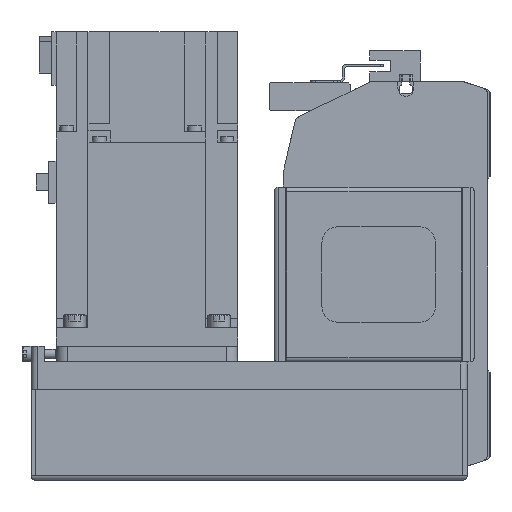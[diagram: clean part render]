
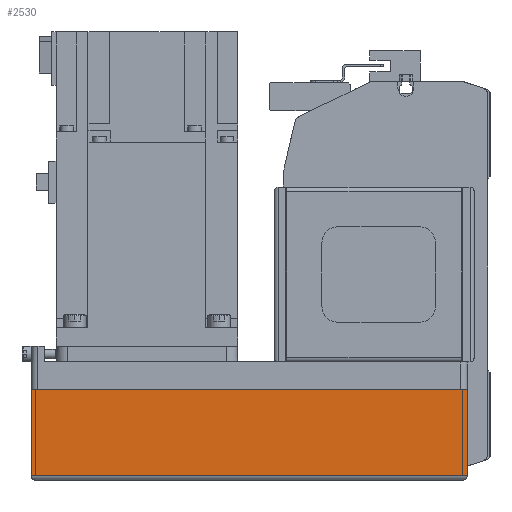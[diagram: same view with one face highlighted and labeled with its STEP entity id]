
A CAD part, left-side view. The second image highlights one B-rep face of the part: STEP entity #2530.
In plain terms, the highlighted planar face has unit normal (-1, 0, 0) as drawn and (0, -1, 0) by its records, which use the part's own axes.
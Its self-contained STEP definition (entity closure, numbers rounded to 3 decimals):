
#2530 = ADVANCED_FACE( '', ( #5415 ), #5416, .T. );
#5415 = FACE_OUTER_BOUND( '', #8599, .T. );
#5416 = PLANE( '', #8600 );
#8599 = EDGE_LOOP( '', ( #15753, #15754, #15755, #15756 ) );
#8600 = AXIS2_PLACEMENT_3D( '', #15757, #15758, #15759 );
#15753 = ORIENTED_EDGE( '', *, *, #18452, .F. );
#15754 = ORIENTED_EDGE( '', *, *, #20130, .F. );
#15755 = ORIENTED_EDGE( '', *, *, #20830, .T. );
#15756 = ORIENTED_EDGE( '', *, *, #19368, .T. );
#15757 = CARTESIAN_POINT( '', ( -192., -40., -12.1 ) );
#15758 = DIRECTION( '', ( 0., -1., 0. ) );
#15759 = DIRECTION( '', ( 0., 0., -1. ) );
#18452 = EDGE_CURVE( '', #22019, #22020, #22021, .T. );
#19368 = EDGE_CURVE( '', #23606, #22020, #23611, .T. );
#20130 = EDGE_CURVE( '', #22823, #22019, #24762, .T. );
#20830 = EDGE_CURVE( '', #22823, #23606, #25737, .T. );
#22019 = VERTEX_POINT( '', #27210 );
#22020 = VERTEX_POINT( '', #27211 );
#22021 = LINE( '', #27212, #27213 );
#22823 = VERTEX_POINT( '', #28283 );
#23606 = VERTEX_POINT( '', #29484 );
#23611 = LINE( '', #29490, #29491 );
#24762 = LINE( '', #31304, #31305 );
#25737 = LINE( '', #32698, #32699 );
#27210 = CARTESIAN_POINT( '', ( 0., -40., -12.1 ) );
#27211 = CARTESIAN_POINT( '', ( 0., -40., -50. ) );
#27212 = CARTESIAN_POINT( '', ( 0., -40., -12.1 ) );
#27213 = VECTOR( '', #34267, 1000. );
#28283 = CARTESIAN_POINT( '', ( -192., -40., -12.1 ) );
#29484 = CARTESIAN_POINT( '', ( -192., -40., -50. ) );
#29490 = CARTESIAN_POINT( '', ( -192., -40., -50. ) );
#29491 = VECTOR( '', #35496, 1000. );
#31304 = CARTESIAN_POINT( '', ( -192., -40., -12.1 ) );
#31305 = VECTOR( '', #36389, 1000. );
#32698 = CARTESIAN_POINT( '', ( -192., -40., -12.1 ) );
#32699 = VECTOR( '', #37202, 1000. );
#34267 = DIRECTION( '', ( 0., 0., -1. ) );
#35496 = DIRECTION( '', ( 1., 0., 0. ) );
#36389 = DIRECTION( '', ( 1., 0., 0. ) );
#37202 = DIRECTION( '', ( 0., 0., -1. ) );
